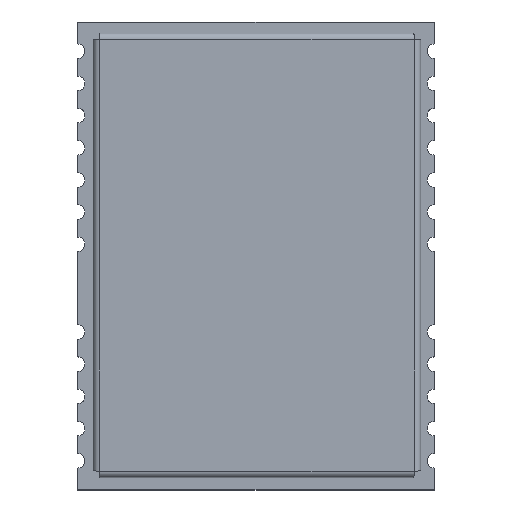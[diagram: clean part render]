
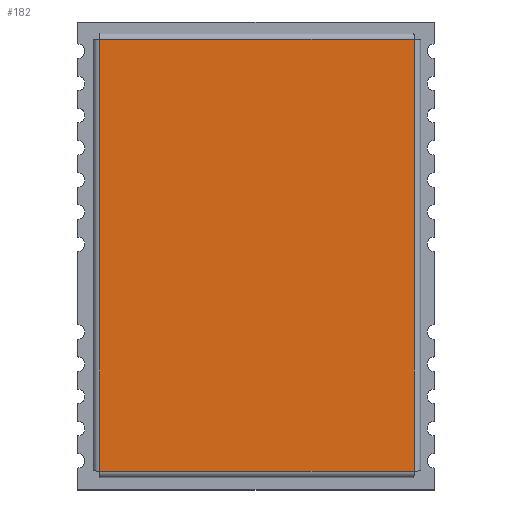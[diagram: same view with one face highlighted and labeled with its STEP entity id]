
A CAD part, top view. The second image highlights one B-rep face of the part: STEP entity #182.
In plain terms, the highlighted planar face has unit normal (0, 0, 1).
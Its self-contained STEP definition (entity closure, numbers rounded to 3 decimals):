
#182 = ADVANCED_FACE('',(#183),#217,.T.);
#183 = FACE_BOUND('',#184,.T.);
#184 = EDGE_LOOP('',(#185,#195,#203,#211));
#185 = ORIENTED_EDGE('',*,*,#186,.T.);
#186 = EDGE_CURVE('',#187,#189,#191,.T.);
#187 = VERTEX_POINT('',#188);
#188 = CARTESIAN_POINT('',(7.38,-5.38,0.));
#189 = VERTEX_POINT('',#190);
#190 = CARTESIAN_POINT('',(7.38,5.38,0.));
#191 = LINE('',#192,#193);
#192 = CARTESIAN_POINT('',(7.38,-5.38,0.));
#193 = VECTOR('',#194,1.);
#194 = DIRECTION('',(0.,1.,0.));
#195 = ORIENTED_EDGE('',*,*,#196,.T.);
#196 = EDGE_CURVE('',#189,#197,#199,.T.);
#197 = VERTEX_POINT('',#198);
#198 = CARTESIAN_POINT('',(-7.38,5.38,0.));
#199 = LINE('',#200,#201);
#200 = CARTESIAN_POINT('',(7.38,5.38,0.));
#201 = VECTOR('',#202,1.);
#202 = DIRECTION('',(-1.,-0.,-0.));
#203 = ORIENTED_EDGE('',*,*,#204,.T.);
#204 = EDGE_CURVE('',#197,#205,#207,.T.);
#205 = VERTEX_POINT('',#206);
#206 = CARTESIAN_POINT('',(-7.38,-5.38,0.));
#207 = LINE('',#208,#209);
#208 = CARTESIAN_POINT('',(-7.38,5.38,0.));
#209 = VECTOR('',#210,1.);
#210 = DIRECTION('',(0.,-1.,0.));
#211 = ORIENTED_EDGE('',*,*,#212,.T.);
#212 = EDGE_CURVE('',#205,#187,#213,.T.);
#213 = LINE('',#214,#215);
#214 = CARTESIAN_POINT('',(-7.38,-5.38,0.));
#215 = VECTOR('',#216,1.);
#216 = DIRECTION('',(1.,-0.,-0.));
#217 = PLANE('',#218);
#218 = AXIS2_PLACEMENT_3D('',#219,#220,#221);
#219 = CARTESIAN_POINT('',(0.,0.,0.));
#220 = DIRECTION('',(-0.,0.,1.));
#221 = DIRECTION('',(1.,0.,0.));
